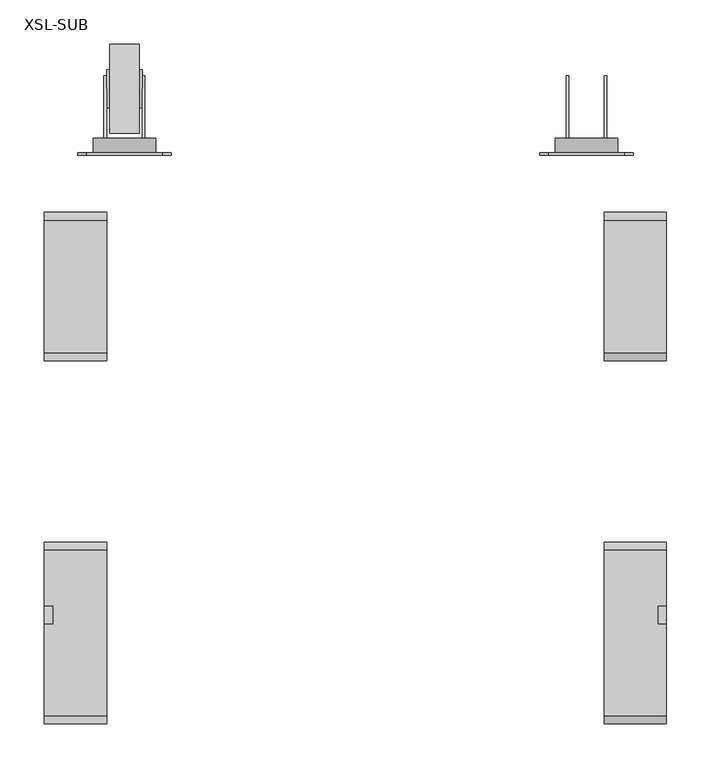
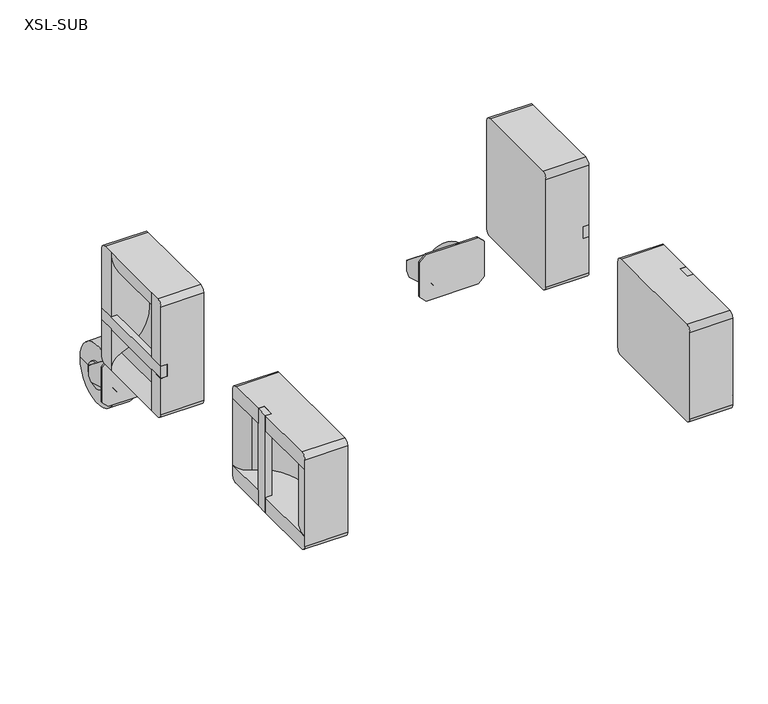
"""IFC4 building model written with IfcOpenShell, lengths in millimetres: proxy geometry, d&b SL-Series XSL-SUB : XSL-SUB."""

from ifc_helpers import new_model, si_unit, frame, origin, place, context, project, spatial, polyline, circle_curve, outline, extrude, source, transform, mapped, element, save
from ifc_brep_helpers import plane_surface, cylinder_surface, revolved_surface, advanced_brep


def xsl_sub_eb40c905(model_context):
    return source(origin(), model_context, "Body", "SolidModel", [
        advanced_brep(
        [(2780.0, 639.2505973, 387.5), (2780.0, 648.2505973, 378.5), (2780.0, 648.2505973, 192.5), (2780.0, 639.2505973, 183.5), (2780.0, 489.7505973, 183.5), (2780.0, 480.7505973, 192.5), (2780.0, 480.7505973, 378.5), (2780.0, 489.7505973, 387.5), (2850.0, 622.2505973, 183.5), (2850.0, 639.2505973, 183.5), (2850.0, 648.2505973, 192.5), (2850.0, 648.2505973, 254.8021634), (2850.0, 622.2505973, 254.8021634), (2850.0, 639.2505973, 387.5), (2850.0, 622.2505973, 387.5), (2850.0, 622.2505973, 275.646253), (2850.0, 648.2505973, 275.646253), (2850.0, 648.2505973, 378.5), (2850.0, 489.7505973, 387.5), (2850.0, 480.7505973, 378.5), (2850.0, 480.7505973, 275.646253), (2850.0, 506.7505973, 275.646253), (2850.0, 506.7505973, 387.5), (2850.0, 506.7505973, 183.5), (2850.0, 506.7505973, 254.8021634), (2850.0, 480.7505973, 254.8021634), (2850.0, 480.7505973, 192.5), (2850.0, 489.7505973, 183.5), (2840.0, 648.2505973, 275.646253), (2840.0, 648.2505973, 254.8021634), (2840.0, 622.2505973, 275.646253), (2840.0, 622.2505973, 254.8021634), (2818.7971722, 622.2505973, 330.5307847), (2833.0638712, 622.2505973, 207.402551), (2840.0, 506.7505973, 275.646253), (2840.0, 506.7505973, 254.8021634), (2833.0638712, 506.7505973, 207.402551), (2818.7971722, 506.7505973, 330.5307847), (2840.0, 480.7505973, 275.646253), (2840.0, 480.7505973, 254.8021634)],
        [
            (0, 1, circle_curve(frame((2780.0, 639.2505973, 378.5), z_axis=(-1.0, 0.0, 0.0), x_axis=(0.0, 1.0, 0.0)), 9.0)),
            (1, 2),
            (2, 3, circle_curve(frame((2780.0, 639.2505973, 192.5), z_axis=(-1.0, 0.0, 0.0), x_axis=(0.0, 1.0, 0.0)), 9.0)),
            (3, 4),
            (4, 5, circle_curve(frame((2780.0, 489.7505973, 192.5), z_axis=(-1.0, 0.0, 0.0), x_axis=(0.0, -1.0, 0.0)), 9.0)),
            (5, 6),
            (6, 7, circle_curve(frame((2780.0, 489.7505973, 378.5), z_axis=(-1.0, 0.0, 0.0), x_axis=(0.0, -1.0, 0.0)), 9.0)),
            (7, 0),
            (8, 9),
            (9, 10, circle_curve(frame((2850.0, 639.2505973, 192.5), z_axis=(1.0, 0.0, 0.0), x_axis=(0.0, 1.0, 0.0)), 9.0)),
            (10, 11),
            (11, 12),
            (12, 8),
            (13, 14),
            (14, 15),
            (15, 16),
            (16, 17),
            (17, 13, circle_curve(frame((2850.0, 639.2505973, 378.5), z_axis=(1.0, 0.0, 0.0), x_axis=(0.0, 1.0, 0.0)), 9.0)),
            (18, 19, circle_curve(frame((2850.0, 489.7505973, 378.5), z_axis=(1.0, 0.0, 0.0), x_axis=(0.0, -1.0, 0.0)), 9.0)),
            (19, 20),
            (20, 21),
            (21, 22),
            (22, 18),
            (23, 24),
            (24, 25),
            (25, 26),
            (26, 27, circle_curve(frame((2850.0, 489.7505973, 192.5), z_axis=(1.0, 0.0, 0.0), x_axis=(0.0, -1.0, 0.0)), 9.0)),
            (27, 23),
            (0, 13),
            (17, 1),
            (10, 2),
            (16, 28),
            (28, 29),
            (29, 11),
            (9, 3),
            (8, 23),
            (27, 4),
            (7, 18),
            (22, 14),
            (15, 30),
            (30, 28),
            (12, 31),
            (31, 30),
            (14, 32, circle_curve(frame((2782.3922182, 622.2505973, 387.5), z_axis=(0.0, 1.0, 0.0), x_axis=(-1.0, 0.0, 0.0)), 67.6077818)),
            (32, 33, circle_curve(frame((2855.918024, 622.2505973, 272.4412785), z_axis=(0.0, -1.0, 0.0), x_axis=(-1.0, 0.0, 0.0)), 68.9372786)),
            (33, 8, circle_curve(frame((2824.6646824, 622.2505973, 183.5), z_axis=(0.0, 1.0, 0.0), x_axis=(-1.0, 0.0, 0.0)), 25.3353176)),
            (29, 31),
            (21, 34),
            (34, 35),
            (35, 24),
            (23, 36, circle_curve(frame((2824.6646824, 506.7505973, 183.5), z_axis=(0.0, -1.0, 0.0), x_axis=(-1.0, 0.0, 0.0)), 25.3353176)),
            (36, 37, circle_curve(frame((2855.918024, 506.7505973, 272.4412785), z_axis=(0.0, 1.0, 0.0), x_axis=(-1.0, 0.0, 0.0)), 68.9372786)),
            (37, 22, circle_curve(frame((2782.3922182, 506.7505973, 387.5), z_axis=(0.0, -1.0, 0.0), x_axis=(-1.0, 0.0, 0.0)), 67.6077818)),
            (20, 38),
            (38, 34),
            (19, 6),
            (5, 26),
            (25, 39),
            (39, 38),
            (35, 39),
            (37, 32),
            (33, 36),
        ],
        [
            plane_surface(frame((2780.0, 648.2505973, 378.5), z_axis=(-1.0, 0.0, 0.0), x_axis=(0.0, 0.0, -1.0))),
            plane_surface(frame((2850.0, 648.2505973, 378.5), z_axis=(1.0, 0.0, 0.0), x_axis=(0.0, 0.0, 1.0))),
            cylinder_surface(frame((2850.0, 639.2505973, 378.5), z_axis=(-1.0, 0.0, 0.0), x_axis=(0.0, 1.0, 0.0)), 9.0),
            plane_surface(frame((2780.0, 648.2505973, 378.5), z_axis=(0.0, 1.0, 0.0), x_axis=(1.0, 0.0, 0.0))),
            cylinder_surface(frame((2850.0, 639.2505973, 192.5), z_axis=(-1.0, 0.0, 0.0), x_axis=(0.0, 1.0, 0.0)), 9.0),
            plane_surface(frame((2780.0, 639.2505973, 183.5), z_axis=(0.0, 0.0, -1.0), x_axis=(1.0, 0.0, 0.0))),
            plane_surface(frame((2780.0, 622.2505973, 387.5), z_axis=(0.0, 0.0, 1.0), x_axis=(1.0, 0.0, 0.0))),
            plane_surface(frame((2780.0, 648.2505973, 275.646253), z_axis=(0.0, 0.0, -1.0), x_axis=(1.0, 0.0, 0.0))),
            plane_surface(frame((2780.0, 622.2505973, 275.646253), z_axis=(0.0, -1.0, 0.0), x_axis=(1.0, 0.0, 0.0))),
            plane_surface(frame((2780.0, 622.2505973, 254.8021634), z_axis=(0.0, 0.0, 1.0), x_axis=(1.0, 0.0, 0.0))),
            plane_surface(frame((2780.0, 506.7505973, 387.5), z_axis=(0.0, 1.0, 0.0), x_axis=(1.0, 0.0, 0.0))),
            plane_surface(frame((2780.0, 506.7505973, 275.646253), z_axis=(0.0, 0.0, -1.0), x_axis=(1.0, 0.0, 0.0))),
            plane_surface(frame((2780.0, 480.7505973, 275.646253), z_axis=(0.0, -1.0, 0.0), x_axis=(1.0, 0.0, 0.0))),
            cylinder_surface(frame((2850.0, 489.7505973, 378.5), z_axis=(-1.0, 0.0, 0.0), x_axis=(0.0, -1.0, 0.0)), 9.0),
            cylinder_surface(frame((2850.0, 489.7505973, 192.5), z_axis=(-1.0, 0.0, 0.0), x_axis=(0.0, -1.0, 0.0)), 9.0),
            plane_surface(frame((2780.0, 480.7505973, 254.8021634), z_axis=(0.0, 0.0, 1.0), x_axis=(1.0, 0.0, 0.0))),
            plane_surface(frame((2840.0, 622.2505973, 254.8021634), z_axis=(1.0, 0.0, 0.0), x_axis=(0.0, 1.0, 0.0))),
            cylinder_surface(frame((2782.3922182, 622.2505973, 387.5), z_axis=(0.0, -1.0, 0.0), x_axis=(-1.0, 0.0, 0.0)), 67.6077818),
            cylinder_surface(frame((2824.6646824, 622.2505973, 183.5), z_axis=(0.0, -1.0, 0.0), x_axis=(-1.0, 0.0, 0.0)), 25.3353176),
            revolved_surface(polyline([(2786.9807454, 622.2505973, 272.4412785), (2786.9807454, 506.7505973, 272.4412785)]), (2855.918024, 622.2505973, 272.4412785), (0.0, 1.0, 0.0)),
        ],
        [
            (0, [[1, 2, 3, 4, 5, 6, 7, 8]]),
            (1, [[9, 10, 11, 12, 13]]),
            (1, [[14, 15, 16, 17, 18]]),
            (1, [[19, 20, 21, 22, 23]]),
            (1, [[24, 25, 26, 27, 28]]),
            (2, [[-1, 29, -18, 30]]),
            (3, [[-11, 31, -2, -30, -17, 32, 33, 34]]),
            (4, [[-3, -31, -10, 35]]),
            (5, [[-4, -35, -9, 36, -28, 37]]),
            (6, [[-8, 38, -23, 39, -14, -29]]),
            (7, [[-16, 40, 41, -32]]),
            (8, [[-13, 42, 43, -40, -15, 44, 45, 46]]),
            (9, [[-12, -34, 47, -42]]),
            (10, [[-22, 48, 49, 50, -24, 51, 52, 53]]),
            (11, [[-21, 54, 55, -48]]),
            (12, [[-20, 56, -6, 57, -26, 58, 59, -54]]),
            (13, [[-7, -56, -19, -38]]),
            (14, [[-5, -37, -27, -57]]),
            (15, [[-25, -50, 60, -58]]),
            (16, [[-33, -41, -43, -47]]),
            (16, [[-49, -55, -59, -60]]),
            (17, [[61, -44, -39, -53]]),
            (18, [[-36, -46, 62, -51]]),
            (19, [[-61, -52, -62, -45]]),
        ],
    ),
        extrude(outline(polyline([(2840.0, 480.7505973), (2840.0, 648.2505973), (2850.0, 648.2505973), (2850.0, 480.7505973), (2840.0, 480.7505973)])), frame((0.0, 0.0, 254.8021634), z_axis=(0.0, 0.0, 1.0), x_axis=(1.0, 0.0, 0.0)), (0.0, 0.0, 1.0), 20.8440895),
        advanced_brep(
        [(2780.0, 72.7505973, 211.5), (2780.0, 72.7505973, 361.0), (2780.0, 81.7505973, 370.0), (2780.0, 267.7505973, 370.0), (2780.0, 276.7505973, 361.0), (2780.0, 276.7505973, 211.5), (2780.0, 267.7505973, 202.5), (2780.0, 81.7505973, 202.5), (2850.0, 276.7505973, 228.5), (2850.0, 205.4484339, 228.5), (2850.0, 205.4484339, 202.5), (2850.0, 267.7505973, 202.5), (2850.0, 276.7505973, 211.5), (2850.0, 72.7505973, 211.5), (2850.0, 81.7505973, 202.5), (2850.0, 184.6043444, 202.5), (2850.0, 184.6043444, 228.5), (2850.0, 72.7505973, 228.5), (2850.0, 72.7505973, 361.0), (2850.0, 72.7505973, 344.0), (2850.0, 184.6043444, 344.0), (2850.0, 184.6043444, 370.0), (2850.0, 81.7505973, 370.0), (2850.0, 276.7505973, 344.0), (2850.0, 276.7505973, 361.0), (2850.0, 267.7505973, 370.0), (2850.0, 205.4484339, 370.0), (2850.0, 205.4484339, 344.0), (2840.0, 205.4484339, 202.5), (2840.0, 184.6043444, 202.5), (2840.0, 184.6043444, 228.5), (2833.0638712, 252.8480463, 228.5), (2818.7971722, 129.7198126, 228.5), (2840.0, 205.4484339, 228.5), (2818.7971722, 129.7198126, 344.0), (2833.0638712, 252.8480463, 344.0), (2840.0, 205.4484339, 344.0), (2840.0, 184.6043444, 344.0), (2840.0, 184.6043444, 370.0), (2840.0, 205.4484339, 370.0)],
        [
            (0, 1),
            (1, 2, circle_curve(frame((2780.0, 81.7505973, 361.0), z_axis=(-1.0, 0.0, 0.0), x_axis=(0.0, 0.0, 1.0)), 9.0)),
            (2, 3),
            (3, 4, circle_curve(frame((2780.0, 267.7505973, 361.0), z_axis=(-1.0, 0.0, 0.0), x_axis=(0.0, 0.0, 1.0)), 9.0)),
            (4, 5),
            (5, 6, circle_curve(frame((2780.0, 267.7505973, 211.5), z_axis=(-1.0, 0.0, 0.0), x_axis=(0.0, 0.0, -1.0)), 9.0)),
            (6, 7),
            (7, 0, circle_curve(frame((2780.0, 81.7505973, 211.5), z_axis=(-1.0, 0.0, 0.0), x_axis=(0.0, 0.0, -1.0)), 9.0)),
            (8, 9),
            (9, 10),
            (10, 11),
            (11, 12, circle_curve(frame((2850.0, 267.7505973, 211.5), z_axis=(1.0, 0.0, 0.0), x_axis=(0.0, 0.0, -1.0)), 9.0)),
            (12, 8),
            (13, 14, circle_curve(frame((2850.0, 81.7505973, 211.5), z_axis=(1.0, 0.0, 0.0), x_axis=(0.0, 0.0, -1.0)), 9.0)),
            (14, 15),
            (15, 16),
            (16, 17),
            (17, 13),
            (18, 19),
            (19, 20),
            (20, 21),
            (21, 22),
            (22, 18, circle_curve(frame((2850.0, 81.7505973, 361.0), z_axis=(1.0, 0.0, 0.0), x_axis=(0.0, 0.0, 1.0)), 9.0)),
            (23, 24),
            (24, 25, circle_curve(frame((2850.0, 267.7505973, 361.0), z_axis=(1.0, 0.0, 0.0), x_axis=(0.0, 0.0, 1.0)), 9.0)),
            (25, 26),
            (26, 27),
            (27, 23),
            (7, 14),
            (13, 0),
            (10, 28),
            (28, 29),
            (29, 15),
            (6, 11),
            (5, 12),
            (4, 24),
            (23, 8),
            (17, 19),
            (18, 1),
            (29, 30),
            (30, 16),
            (8, 31, circle_curve(frame((2824.6646824, 276.7505973, 228.5), z_axis=(0.0, 0.0, -1.0), x_axis=(-1.0, 0.0, 0.0)), 25.3353176)),
            (31, 32, circle_curve(frame((2855.918024, 187.8093188, 228.5), z_axis=(0.0, 0.0, 1.0), x_axis=(-1.0, 0.0, 0.0)), 68.9372786)),
            (32, 17, circle_curve(frame((2782.3922182, 72.7505973, 228.5), z_axis=(0.0, 0.0, -1.0), x_axis=(-1.0, 0.0, 0.0)), 67.6077818)),
            (30, 33),
            (33, 9),
            (33, 28),
            (19, 34, circle_curve(frame((2782.3922182, 72.7505973, 344.0), z_axis=(0.0, 0.0, 1.0), x_axis=(-1.0, 0.0, 0.0)), 67.6077818)),
            (34, 35, circle_curve(frame((2855.918024, 187.8093188, 344.0), z_axis=(0.0, 0.0, -1.0), x_axis=(-1.0, 0.0, 0.0)), 68.9372786)),
            (35, 23, circle_curve(frame((2824.6646824, 276.7505973, 344.0), z_axis=(0.0, 0.0, 1.0), x_axis=(-1.0, 0.0, 0.0)), 25.3353176)),
            (27, 36),
            (36, 37),
            (37, 20),
            (37, 38),
            (38, 21),
            (38, 39),
            (39, 26),
            (25, 3),
            (2, 22),
            (39, 36),
            (32, 34),
            (35, 31),
        ],
        [
            plane_surface(frame((2780.0, 81.7505973, 202.5), z_axis=(-1.0, 0.0, 0.0), x_axis=(0.0, 1.0, 0.0))),
            plane_surface(frame((2850.0, 81.7505973, 202.5), z_axis=(1.0, 0.0, 0.0), x_axis=(0.0, -1.0, 0.0))),
            cylinder_surface(frame((2850.0, 81.7505973, 211.5), z_axis=(-1.0, 0.0, 0.0), x_axis=(0.0, 0.0, -1.0)), 9.0),
            plane_surface(frame((2780.0, 81.7505973, 202.5), z_axis=(0.0, 0.0, -1.0), x_axis=(1.0, 0.0, 0.0))),
            cylinder_surface(frame((2850.0, 267.7505973, 211.5), z_axis=(-1.0, 0.0, 0.0), x_axis=(0.0, 0.0, -1.0)), 9.0),
            plane_surface(frame((2780.0, 276.7505973, 211.5), z_axis=(0.0, 1.0, 0.0), x_axis=(1.0, 0.0, 0.0))),
            plane_surface(frame((2780.0, 72.7505973, 228.5), z_axis=(0.0, -1.0, 0.0), x_axis=(1.0, 0.0, 0.0))),
            plane_surface(frame((2780.0, 184.6043444, 202.5), z_axis=(0.0, 1.0, 0.0), x_axis=(1.0, 0.0, 0.0))),
            plane_surface(frame((2780.0, 184.6043444, 228.5), z_axis=(0.0, 0.0, 1.0), x_axis=(1.0, 0.0, 0.0))),
            plane_surface(frame((2780.0, 205.4484339, 228.5), z_axis=(0.0, -1.0, 0.0), x_axis=(1.0, 0.0, 0.0))),
            plane_surface(frame((2780.0, 72.7505973, 344.0), z_axis=(0.0, 0.0, -1.0), x_axis=(1.0, 0.0, 0.0))),
            plane_surface(frame((2780.0, 184.6043444, 344.0), z_axis=(0.0, 1.0, 0.0), x_axis=(1.0, 0.0, 0.0))),
            plane_surface(frame((2780.0, 184.6043444, 370.0), z_axis=(0.0, 0.0, 1.0), x_axis=(1.0, 0.0, 0.0))),
            cylinder_surface(frame((2850.0, 81.7505973, 361.0), z_axis=(-1.0, 0.0, 0.0), x_axis=(0.0, 0.0, 1.0)), 9.0),
            cylinder_surface(frame((2850.0, 267.7505973, 361.0), z_axis=(-1.0, 0.0, 0.0), x_axis=(0.0, 0.0, 1.0)), 9.0),
            plane_surface(frame((2780.0, 205.4484339, 370.0), z_axis=(0.0, -1.0, 0.0), x_axis=(1.0, 0.0, 0.0))),
            plane_surface(frame((2840.0, 205.4484339, 228.5), z_axis=(1.0, 0.0, 0.0), x_axis=(0.0, 0.0, -1.0))),
            cylinder_surface(frame((2782.3922182, 72.7505973, 228.5), z_axis=(0.0, 0.0, 1.0), x_axis=(-1.0, 0.0, 0.0)), 67.6077818),
            cylinder_surface(frame((2824.6646824, 276.7505973, 228.5), z_axis=(0.0, 0.0, 1.0), x_axis=(-1.0, 0.0, 0.0)), 25.3353176),
            revolved_surface(polyline([(2786.9807454, 187.8093188, 228.5), (2786.9807454, 187.8093188, 344.0)]), (2855.918024, 187.8093188, 228.5), (0.0, 0.0, -1.0)),
        ],
        [
            (0, [[1, 2, 3, 4, 5, 6, 7, 8]]),
            (1, [[9, 10, 11, 12, 13]]),
            (1, [[14, 15, 16, 17, 18]]),
            (1, [[19, 20, 21, 22, 23]]),
            (1, [[24, 25, 26, 27, 28]]),
            (2, [[29, -14, 30, -8]]),
            (3, [[31, 32, 33, -15, -29, -7, 34, -11]]),
            (4, [[35, -12, -34, -6]]),
            (5, [[36, -24, 37, -13, -35, -5]]),
            (6, [[-30, -18, 38, -19, 39, -1]]),
            (7, [[-33, 40, 41, -16]]),
            (8, [[42, 43, 44, -17, -41, 45, 46, -9]]),
            (9, [[-46, 47, -31, -10]]),
            (10, [[48, 49, 50, -28, 51, 52, 53, -20]]),
            (11, [[-53, 54, 55, -21]]),
            (12, [[-55, 56, 57, -26, 58, -3, 59, -22]]),
            (13, [[-39, -23, -59, -2]]),
            (14, [[-58, -25, -36, -4]]),
            (15, [[-57, 60, -51, -27]]),
            (16, [[-47, -45, -40, -32]]),
            (16, [[-60, -56, -54, -52]]),
            (17, [[-48, -38, -44, 61]]),
            (18, [[-50, 62, -42, -37]]),
            (19, [[-43, -62, -49, -61]]),
        ],
    ),
        extrude(outline(polyline([(2840.0, 205.4484339), (2850.0, 205.4484339), (2850.0, 184.6043444), (2840.0, 184.6043444), (2840.0, 205.4484339)])), frame((0.0, 0.0, 202.5), z_axis=(0.0, 0.0, 1.0), x_axis=(1.0, 0.0, 0.0)), (0.0, 0.0, 1.0), 167.5),
        advanced_brep(
        [(2220.0, 639.2505973, 387.5), (2220.0, 489.7505973, 387.5), (2220.0, 480.7505973, 378.5), (2220.0, 480.7505973, 192.5), (2220.0, 489.7505973, 183.5), (2220.0, 639.2505973, 183.5), (2220.0, 648.2505973, 192.5), (2220.0, 648.2505973, 378.5), (2150.0, 622.2505973, 183.5), (2150.0, 622.2505973, 254.8021634), (2150.0, 648.2505973, 254.8021634), (2150.0, 648.2505973, 192.5), (2150.0, 639.2505973, 183.5), (2150.0, 639.2505973, 387.5), (2150.0, 648.2505973, 378.5), (2150.0, 648.2505973, 275.646253), (2150.0, 622.2505973, 275.646253), (2150.0, 622.2505973, 387.5), (2150.0, 489.7505973, 387.5), (2150.0, 506.7505973, 387.5), (2150.0, 506.7505973, 275.646253), (2150.0, 480.7505973, 275.646253), (2150.0, 480.7505973, 378.5), (2150.0, 506.7505973, 183.5), (2150.0, 489.7505973, 183.5), (2150.0, 480.7505973, 192.5), (2150.0, 480.7505973, 254.8021634), (2150.0, 506.7505973, 254.8021634), (2160.0, 648.2505973, 254.8021634), (2160.0, 648.2505973, 275.646253), (2160.0, 622.2505973, 275.646253), (2166.9361288, 622.2505973, 207.402551), (2181.2028278, 622.2505973, 330.5307847), (2160.0, 622.2505973, 254.8021634), (2181.2028278, 506.7505973, 330.5307847), (2166.9361288, 506.7505973, 207.402551), (2160.0, 506.7505973, 254.8021634), (2160.0, 506.7505973, 275.646253), (2160.0, 480.7505973, 275.646253), (2160.0, 480.7505973, 254.8021634)],
        [
            (0, 1),
            (1, 2, circle_curve(frame((2220.0, 489.7505973, 378.5), z_axis=(1.0, 0.0, 0.0), x_axis=(0.0, -1.0, 0.0)), 9.0)),
            (2, 3),
            (3, 4, circle_curve(frame((2220.0, 489.7505973, 192.5), z_axis=(1.0, 0.0, 0.0), x_axis=(0.0, -1.0, 0.0)), 9.0)),
            (4, 5),
            (5, 6, circle_curve(frame((2220.0, 639.2505973, 192.5), z_axis=(1.0, 0.0, 0.0), x_axis=(0.0, 1.0, 0.0)), 9.0)),
            (6, 7),
            (7, 0, circle_curve(frame((2220.0, 639.2505973, 378.5), z_axis=(1.0, 0.0, 0.0), x_axis=(0.0, 1.0, 0.0)), 9.0)),
            (8, 9),
            (9, 10),
            (10, 11),
            (11, 12, circle_curve(frame((2150.0, 639.2505973, 192.5), z_axis=(-1.0, 0.0, 0.0), x_axis=(0.0, 1.0, 0.0)), 9.0)),
            (12, 8),
            (13, 14, circle_curve(frame((2150.0, 639.2505973, 378.5), z_axis=(-1.0, 0.0, 0.0), x_axis=(0.0, 1.0, 0.0)), 9.0)),
            (14, 15),
            (15, 16),
            (16, 17),
            (17, 13),
            (18, 19),
            (19, 20),
            (20, 21),
            (21, 22),
            (22, 18, circle_curve(frame((2150.0, 489.7505973, 378.5), z_axis=(-1.0, 0.0, 0.0), x_axis=(0.0, -1.0, 0.0)), 9.0)),
            (23, 24),
            (24, 25, circle_curve(frame((2150.0, 489.7505973, 192.5), z_axis=(-1.0, 0.0, 0.0), x_axis=(0.0, -1.0, 0.0)), 9.0)),
            (25, 26),
            (26, 27),
            (27, 23),
            (7, 14),
            (13, 0),
            (10, 28),
            (28, 29),
            (29, 15),
            (6, 11),
            (5, 12),
            (4, 24),
            (23, 8),
            (17, 19),
            (18, 1),
            (29, 30),
            (30, 16),
            (8, 31, circle_curve(frame((2175.3353176, 622.2505973, 183.5), z_axis=(0.0, 1.0, 0.0), x_axis=(1.0, 0.0, 0.0)), 25.3353176)),
            (31, 32, circle_curve(frame((2144.081976, 622.2505973, 272.4412785), z_axis=(0.0, -1.0, 0.0), x_axis=(1.0, 0.0, 0.0)), 68.9372786)),
            (32, 17, circle_curve(frame((2217.6077818, 622.2505973, 387.5), z_axis=(0.0, 1.0, 0.0), x_axis=(1.0, 0.0, 0.0)), 67.6077818)),
            (30, 33),
            (33, 9),
            (33, 28),
            (19, 34, circle_curve(frame((2217.6077818, 506.7505973, 387.5), z_axis=(0.0, -1.0, 0.0), x_axis=(1.0, 0.0, 0.0)), 67.6077818)),
            (34, 35, circle_curve(frame((2144.081976, 506.7505973, 272.4412785), z_axis=(0.0, 1.0, 0.0), x_axis=(1.0, 0.0, 0.0)), 68.9372786)),
            (35, 23, circle_curve(frame((2175.3353176, 506.7505973, 183.5), z_axis=(0.0, -1.0, 0.0), x_axis=(1.0, 0.0, 0.0)), 25.3353176)),
            (27, 36),
            (36, 37),
            (37, 20),
            (37, 38),
            (38, 21),
            (38, 39),
            (39, 26),
            (25, 3),
            (2, 22),
            (39, 36),
            (32, 34),
            (35, 31),
        ],
        [
            plane_surface(frame((2220.0, 648.2505973, 378.5), z_axis=(1.0, 0.0, 0.0), x_axis=(0.0, 0.0, -1.0))),
            plane_surface(frame((2150.0, 648.2505973, 378.5), z_axis=(-1.0, 0.0, 0.0), x_axis=(0.0, 0.0, 1.0))),
            cylinder_surface(frame((2150.0, 639.2505973, 378.5), z_axis=(1.0, 0.0, 0.0), x_axis=(0.0, 1.0, 0.0)), 9.0),
            plane_surface(frame((2220.0, 648.2505973, 378.5), z_axis=(0.0, 1.0, 0.0), x_axis=(-1.0, 0.0, 0.0))),
            cylinder_surface(frame((2150.0, 639.2505973, 192.5), z_axis=(1.0, 0.0, 0.0), x_axis=(0.0, 1.0, 0.0)), 9.0),
            plane_surface(frame((2220.0, 639.2505973, 183.5), z_axis=(0.0, 0.0, -1.0), x_axis=(-1.0, 0.0, 0.0))),
            plane_surface(frame((2220.0, 622.2505973, 387.5), z_axis=(0.0, 0.0, 1.0), x_axis=(-1.0, 0.0, 0.0))),
            plane_surface(frame((2220.0, 648.2505973, 275.646253), z_axis=(0.0, 0.0, -1.0), x_axis=(-1.0, 0.0, 0.0))),
            plane_surface(frame((2220.0, 622.2505973, 275.646253), z_axis=(0.0, -1.0, 0.0), x_axis=(-1.0, 0.0, 0.0))),
            plane_surface(frame((2220.0, 622.2505973, 254.8021634), z_axis=(0.0, 0.0, 1.0), x_axis=(-1.0, 0.0, 0.0))),
            plane_surface(frame((2220.0, 506.7505973, 387.5), z_axis=(0.0, 1.0, 0.0), x_axis=(-1.0, 0.0, 0.0))),
            plane_surface(frame((2220.0, 506.7505973, 275.646253), z_axis=(0.0, 0.0, -1.0), x_axis=(-1.0, 0.0, 0.0))),
            plane_surface(frame((2220.0, 480.7505973, 275.646253), z_axis=(0.0, -1.0, 0.0), x_axis=(-1.0, 0.0, 0.0))),
            cylinder_surface(frame((2150.0, 489.7505973, 378.5), z_axis=(1.0, 0.0, 0.0), x_axis=(0.0, -1.0, 0.0)), 9.0),
            cylinder_surface(frame((2150.0, 489.7505973, 192.5), z_axis=(1.0, 0.0, 0.0), x_axis=(0.0, -1.0, 0.0)), 9.0),
            plane_surface(frame((2220.0, 480.7505973, 254.8021634), z_axis=(0.0, 0.0, 1.0), x_axis=(-1.0, 0.0, 0.0))),
            plane_surface(frame((2160.0, 622.2505973, 254.8021634), z_axis=(-1.0, 0.0, 0.0), x_axis=(0.0, 1.0, 0.0))),
            cylinder_surface(frame((2217.6077818, 622.2505973, 387.5), z_axis=(0.0, -1.0, 0.0), x_axis=(1.0, 0.0, 0.0)), 67.6077818),
            cylinder_surface(frame((2175.3353176, 622.2505973, 183.5), z_axis=(0.0, -1.0, 0.0), x_axis=(1.0, 0.0, 0.0)), 25.3353176),
            revolved_surface(polyline([(2213.0192546, 622.2505973, 272.4412785), (2213.0192546, 506.7505973, 272.4412785)]), (2144.081976, 622.2505973, 272.4412785), (0.0, 1.0, 0.0)),
        ],
        [
            (0, [[1, 2, 3, 4, 5, 6, 7, 8]]),
            (1, [[9, 10, 11, 12, 13]]),
            (1, [[14, 15, 16, 17, 18]]),
            (1, [[19, 20, 21, 22, 23]]),
            (1, [[24, 25, 26, 27, 28]]),
            (2, [[29, -14, 30, -8]]),
            (3, [[31, 32, 33, -15, -29, -7, 34, -11]]),
            (4, [[35, -12, -34, -6]]),
            (5, [[36, -24, 37, -13, -35, -5]]),
            (6, [[-30, -18, 38, -19, 39, -1]]),
            (7, [[-33, 40, 41, -16]]),
            (8, [[42, 43, 44, -17, -41, 45, 46, -9]]),
            (9, [[-46, 47, -31, -10]]),
            (10, [[48, 49, 50, -28, 51, 52, 53, -20]]),
            (11, [[-53, 54, 55, -21]]),
            (12, [[-55, 56, 57, -26, 58, -3, 59, -22]]),
            (13, [[-39, -23, -59, -2]]),
            (14, [[-58, -25, -36, -4]]),
            (15, [[-57, 60, -51, -27]]),
            (16, [[-47, -45, -40, -32]]),
            (16, [[-60, -56, -54, -52]]),
            (17, [[-48, -38, -44, 61]]),
            (18, [[-50, 62, -42, -37]]),
            (19, [[-43, -62, -49, -61]]),
        ],
    ),
        extrude(outline(polyline([(2160.0, 480.7505973), (2150.0, 480.7505973), (2150.0, 648.2505973), (2160.0, 648.2505973), (2160.0, 480.7505973)])), frame((0.0, 0.0, 254.8021634), z_axis=(0.0, 0.0, 1.0), x_axis=(1.0, 0.0, 0.0)), (0.0, 0.0, 1.0), 20.8440895),
        advanced_brep(
        [(2220.0, 72.7505973, 211.5), (2220.0, 81.7505973, 202.5), (2220.0, 267.7505973, 202.5), (2220.0, 276.7505973, 211.5), (2220.0, 276.7505973, 361.0), (2220.0, 267.7505973, 370.0), (2220.0, 81.7505973, 370.0), (2220.0, 72.7505973, 361.0), (2150.0, 276.7505973, 228.5), (2150.0, 276.7505973, 211.5), (2150.0, 267.7505973, 202.5), (2150.0, 205.4484339, 202.5), (2150.0, 205.4484339, 228.5), (2150.0, 72.7505973, 211.5), (2150.0, 72.7505973, 228.5), (2150.0, 184.6043444, 228.5), (2150.0, 184.6043444, 202.5), (2150.0, 81.7505973, 202.5), (2150.0, 72.7505973, 361.0), (2150.0, 81.7505973, 370.0), (2150.0, 184.6043444, 370.0), (2150.0, 184.6043444, 344.0), (2150.0, 72.7505973, 344.0), (2150.0, 276.7505973, 344.0), (2150.0, 205.4484339, 344.0), (2150.0, 205.4484339, 370.0), (2150.0, 267.7505973, 370.0), (2150.0, 276.7505973, 361.0), (2160.0, 184.6043444, 202.5), (2160.0, 205.4484339, 202.5), (2160.0, 184.6043444, 228.5), (2160.0, 205.4484339, 228.5), (2181.2028278, 129.7198126, 228.5), (2166.9361288, 252.8480463, 228.5), (2160.0, 184.6043444, 344.0), (2160.0, 205.4484339, 344.0), (2166.9361288, 252.8480463, 344.0), (2181.2028278, 129.7198126, 344.0), (2160.0, 184.6043444, 370.0), (2160.0, 205.4484339, 370.0)],
        [
            (0, 1, circle_curve(frame((2220.0, 81.7505973, 211.5), z_axis=(1.0, 0.0, 0.0), x_axis=(0.0, 0.0, -1.0)), 9.0)),
            (1, 2),
            (2, 3, circle_curve(frame((2220.0, 267.7505973, 211.5), z_axis=(1.0, 0.0, 0.0), x_axis=(0.0, 0.0, -1.0)), 9.0)),
            (3, 4),
            (4, 5, circle_curve(frame((2220.0, 267.7505973, 361.0), z_axis=(1.0, 0.0, 0.0), x_axis=(0.0, 0.0, 1.0)), 9.0)),
            (5, 6),
            (6, 7, circle_curve(frame((2220.0, 81.7505973, 361.0), z_axis=(1.0, 0.0, 0.0), x_axis=(0.0, 0.0, 1.0)), 9.0)),
            (7, 0),
            (8, 9),
            (9, 10, circle_curve(frame((2150.0, 267.7505973, 211.5), z_axis=(-1.0, 0.0, 0.0), x_axis=(0.0, 0.0, -1.0)), 9.0)),
            (10, 11),
            (11, 12),
            (12, 8),
            (13, 14),
            (14, 15),
            (15, 16),
            (16, 17),
            (17, 13, circle_curve(frame((2150.0, 81.7505973, 211.5), z_axis=(-1.0, 0.0, 0.0), x_axis=(0.0, 0.0, -1.0)), 9.0)),
            (18, 19, circle_curve(frame((2150.0, 81.7505973, 361.0), z_axis=(-1.0, 0.0, 0.0), x_axis=(0.0, 0.0, 1.0)), 9.0)),
            (19, 20),
            (20, 21),
            (21, 22),
            (22, 18),
            (23, 24),
            (24, 25),
            (25, 26),
            (26, 27, circle_curve(frame((2150.0, 267.7505973, 361.0), z_axis=(-1.0, 0.0, 0.0), x_axis=(0.0, 0.0, 1.0)), 9.0)),
            (27, 23),
            (0, 13),
            (17, 1),
            (10, 2),
            (16, 28),
            (28, 29),
            (29, 11),
            (9, 3),
            (8, 23),
            (27, 4),
            (7, 18),
            (22, 14),
            (15, 30),
            (30, 28),
            (12, 31),
            (31, 30),
            (14, 32, circle_curve(frame((2217.6077818, 72.7505973, 228.5), z_axis=(0.0, 0.0, -1.0), x_axis=(1.0, 0.0, 0.0)), 67.6077818)),
            (32, 33, circle_curve(frame((2144.081976, 187.8093188, 228.5), z_axis=(0.0, 0.0, 1.0), x_axis=(1.0, 0.0, 0.0)), 68.9372786)),
            (33, 8, circle_curve(frame((2175.3353176, 276.7505973, 228.5), z_axis=(0.0, 0.0, -1.0), x_axis=(1.0, 0.0, 0.0)), 25.3353176)),
            (29, 31),
            (21, 34),
            (34, 35),
            (35, 24),
            (23, 36, circle_curve(frame((2175.3353176, 276.7505973, 344.0), z_axis=(0.0, 0.0, 1.0), x_axis=(1.0, 0.0, 0.0)), 25.3353176)),
            (36, 37, circle_curve(frame((2144.081976, 187.8093188, 344.0), z_axis=(0.0, 0.0, -1.0), x_axis=(1.0, 0.0, 0.0)), 68.9372786)),
            (37, 22, circle_curve(frame((2217.6077818, 72.7505973, 344.0), z_axis=(0.0, 0.0, 1.0), x_axis=(1.0, 0.0, 0.0)), 67.6077818)),
            (20, 38),
            (38, 34),
            (19, 6),
            (5, 26),
            (25, 39),
            (39, 38),
            (35, 39),
            (37, 32),
            (33, 36),
        ],
        [
            plane_surface(frame((2220.0, 81.7505973, 202.5), z_axis=(1.0, 0.0, 0.0), x_axis=(0.0, 1.0, 0.0))),
            plane_surface(frame((2150.0, 81.7505973, 202.5), z_axis=(-1.0, 0.0, 0.0), x_axis=(0.0, -1.0, 0.0))),
            cylinder_surface(frame((2150.0, 81.7505973, 211.5), z_axis=(1.0, 0.0, 0.0), x_axis=(0.0, 0.0, -1.0)), 9.0),
            plane_surface(frame((2220.0, 81.7505973, 202.5), z_axis=(0.0, 0.0, -1.0), x_axis=(-1.0, 0.0, 0.0))),
            cylinder_surface(frame((2150.0, 267.7505973, 211.5), z_axis=(1.0, 0.0, 0.0), x_axis=(0.0, 0.0, -1.0)), 9.0),
            plane_surface(frame((2220.0, 276.7505973, 211.5), z_axis=(0.0, 1.0, 0.0), x_axis=(-1.0, 0.0, 0.0))),
            plane_surface(frame((2220.0, 72.7505973, 228.5), z_axis=(0.0, -1.0, 0.0), x_axis=(-1.0, 0.0, 0.0))),
            plane_surface(frame((2220.0, 184.6043444, 202.5), z_axis=(0.0, 1.0, 0.0), x_axis=(-1.0, 0.0, 0.0))),
            plane_surface(frame((2220.0, 184.6043444, 228.5), z_axis=(0.0, 0.0, 1.0), x_axis=(-1.0, 0.0, 0.0))),
            plane_surface(frame((2220.0, 205.4484339, 228.5), z_axis=(0.0, -1.0, 0.0), x_axis=(-1.0, 0.0, 0.0))),
            plane_surface(frame((2220.0, 72.7505973, 344.0), z_axis=(0.0, 0.0, -1.0), x_axis=(-1.0, 0.0, 0.0))),
            plane_surface(frame((2220.0, 184.6043444, 344.0), z_axis=(0.0, 1.0, 0.0), x_axis=(-1.0, 0.0, 0.0))),
            plane_surface(frame((2220.0, 184.6043444, 370.0), z_axis=(0.0, 0.0, 1.0), x_axis=(-1.0, 0.0, 0.0))),
            cylinder_surface(frame((2150.0, 81.7505973, 361.0), z_axis=(1.0, 0.0, 0.0), x_axis=(0.0, 0.0, 1.0)), 9.0),
            cylinder_surface(frame((2150.0, 267.7505973, 361.0), z_axis=(1.0, 0.0, 0.0), x_axis=(0.0, 0.0, 1.0)), 9.0),
            plane_surface(frame((2220.0, 205.4484339, 370.0), z_axis=(0.0, -1.0, 0.0), x_axis=(-1.0, 0.0, 0.0))),
            plane_surface(frame((2160.0, 205.4484339, 228.5), z_axis=(-1.0, 0.0, 0.0), x_axis=(0.0, 0.0, -1.0))),
            cylinder_surface(frame((2217.6077818, 72.7505973, 228.5), z_axis=(0.0, 0.0, 1.0), x_axis=(1.0, 0.0, 0.0)), 67.6077818),
            cylinder_surface(frame((2175.3353176, 276.7505973, 228.5), z_axis=(0.0, 0.0, 1.0), x_axis=(1.0, 0.0, 0.0)), 25.3353176),
            revolved_surface(polyline([(2213.0192546, 187.8093188, 228.5), (2213.0192546, 187.8093188, 344.0)]), (2144.081976, 187.8093188, 228.5), (0.0, 0.0, -1.0)),
        ],
        [
            (0, [[1, 2, 3, 4, 5, 6, 7, 8]]),
            (1, [[9, 10, 11, 12, 13]]),
            (1, [[14, 15, 16, 17, 18]]),
            (1, [[19, 20, 21, 22, 23]]),
            (1, [[24, 25, 26, 27, 28]]),
            (2, [[-1, 29, -18, 30]]),
            (3, [[-11, 31, -2, -30, -17, 32, 33, 34]]),
            (4, [[-3, -31, -10, 35]]),
            (5, [[-4, -35, -9, 36, -28, 37]]),
            (6, [[-8, 38, -23, 39, -14, -29]]),
            (7, [[-16, 40, 41, -32]]),
            (8, [[-13, 42, 43, -40, -15, 44, 45, 46]]),
            (9, [[-12, -34, 47, -42]]),
            (10, [[-22, 48, 49, 50, -24, 51, 52, 53]]),
            (11, [[-21, 54, 55, -48]]),
            (12, [[-20, 56, -6, 57, -26, 58, 59, -54]]),
            (13, [[-7, -56, -19, -38]]),
            (14, [[-5, -37, -27, -57]]),
            (15, [[-25, -50, 60, -58]]),
            (16, [[-33, -41, -43, -47]]),
            (16, [[-49, -55, -59, -60]]),
            (17, [[61, -44, -39, -53]]),
            (18, [[-36, -46, 62, -51]]),
            (19, [[-61, -52, -62, -45]]),
        ],
    ),
        extrude(outline(polyline([(2160.0, 205.4484339), (2160.0, 184.6043444), (2150.0, 184.6043444), (2150.0, 205.4484339), (2160.0, 205.4484339)])), frame((0.0, 0.0, 202.5), z_axis=(0.0, 0.0, 1.0), x_axis=(1.0, 0.0, 0.0)), (0.0, 0.0, 1.0), 167.5),
        advanced_brep(
        [(2275.0, 731.2505973, 89.499962), (2263.0, 731.2505973, 63.1181501), (2263.0, 731.2505973, 115.5781491), (2260.0, 731.2505973, 115.5781491), (2260.0, 731.2505973, 60.7771488), (2220.0, 731.2505973, 60.7771488), (2220.0, 731.2505973, 115.5781491), (2217.0, 731.2505973, 115.5781491), (2217.0, 731.2505973, 63.1181501), (2205.0, 731.2505973, 89.499962), (2205.0, 715.2505973, 89.499962), (2217.0, 715.2505973, 63.1181501), (2217.0, 715.2505973, 54.67524), (2220.0, 715.2505973, 54.67524), (2220.0, 715.2505973, 60.7771488), (2260.0, 715.2505973, 60.7771488), (2260.0, 715.2505973, 54.67524), (2263.0, 715.2505973, 54.67524), (2263.0, 715.2505973, 63.1181501), (2275.0, 715.2505973, 89.499962), (2263.0, 729.9505973, 54.67524), (2263.0, 794.4505973, 34.499962), (2263.0, 801.4505973, 41.499962), (2263.0, 801.4505973, 59.6264244), (2260.0, 801.4505973, 59.6264244), (2260.0, 801.4505973, 41.499962), (2260.0, 794.4505973, 34.499962), (2260.0, 729.9505973, 54.67524), (2217.0, 801.4505973, 59.6264244), (2217.0, 801.4505973, 41.499962), (2217.0, 794.4505973, 34.499962), (2217.0, 729.9505973, 54.67524), (2220.0, 729.9505973, 54.67524), (2220.0, 794.4505973, 34.499962), (2220.0, 801.4505973, 41.499962), (2220.0, 801.4505973, 59.6264244)],
        [
            (0, 1, circle_curve(frame((2240.0, 731.2505973, 89.499962), z_axis=(0.0, 1.0, 0.0), x_axis=(1.0, 0.0, 0.0)), 35.0)),
            (1, 2),
            (2, 3),
            (3, 4),
            (4, 5, circle_curve(frame((2240.0, 731.2505973, 89.499962), z_axis=(0.0, 1.0, 0.0), x_axis=(1.0, 0.0, 0.0)), 35.0)),
            (5, 6),
            (6, 7),
            (7, 8),
            (8, 9, circle_curve(frame((2240.0, 731.2505973, 89.499962), z_axis=(0.0, 1.0, 0.0), x_axis=(1.0, 0.0, 0.0)), 35.0)),
            (9, 0, circle_curve(frame((2240.0, 731.2505973, 89.499962), z_axis=(0.0, 1.0, 0.0), x_axis=(1.0, 0.0, 0.0)), 35.0)),
            (10, 11, circle_curve(frame((2240.0, 715.2505973, 89.499962), z_axis=(0.0, -1.0, 0.0), x_axis=(1.0, 0.0, 0.0)), 35.0)),
            (11, 12),
            (12, 13),
            (13, 14),
            (14, 15, circle_curve(frame((2240.0, 715.2505973, 89.499962), z_axis=(0.0, -1.0, 0.0), x_axis=(1.0, 0.0, 0.0)), 35.0)),
            (15, 16),
            (16, 17),
            (17, 18),
            (18, 19, circle_curve(frame((2240.0, 715.2505973, 89.499962), z_axis=(0.0, -1.0, 0.0), x_axis=(1.0, 0.0, 0.0)), 35.0)),
            (19, 10, circle_curve(frame((2240.0, 715.2505973, 89.499962), z_axis=(0.0, -1.0, 0.0), x_axis=(1.0, 0.0, 0.0)), 35.0)),
            (8, 11),
            (10, 9),
            (14, 5),
            (4, 15),
            (18, 1),
            (0, 19),
            (17, 20),
            (20, 21),
            (21, 22),
            (22, 23),
            (23, 2),
            (3, 24),
            (24, 25),
            (25, 26),
            (26, 27),
            (27, 16),
            (23, 24),
            (22, 25),
            (21, 26),
            (20, 27),
            (7, 28),
            (28, 29),
            (29, 30),
            (30, 31),
            (31, 12),
            (13, 32),
            (32, 33),
            (33, 34),
            (34, 35),
            (35, 6),
            (35, 28),
            (34, 29),
            (33, 30),
            (32, 31),
        ],
        [
            plane_surface(frame((2275.0, 731.2505973, 89.499962), z_axis=(0.0, 1.0, 0.0), x_axis=(0.0, 0.0, 1.0))),
            plane_surface(frame((2275.0, 715.2505973, 89.499962), z_axis=(0.0, -1.0, 0.0), x_axis=(0.0, 0.0, -1.0))),
            cylinder_surface(frame((2240.0, 715.2505973, 89.499962), z_axis=(0.0, 1.0, 0.0), x_axis=(1.0, 0.0, 0.0)), 35.0),
            plane_surface(frame((2263.0, 785.1202866, 72.6422228), z_axis=(1.0000000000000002, 0.0, 0.0), x_axis=(0.0, 0.7819992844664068, -0.6232793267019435))),
            plane_surface(frame((2260.0, 785.1202866, 72.6422228), z_axis=(-1.0000000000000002, 0.0, 0.0), x_axis=(0.0, -0.7819992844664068, 0.6232793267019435))),
            plane_surface(frame((2263.0, 731.2505973, 115.5781491), z_axis=(0.0, 0.6232793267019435, 0.7819992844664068), x_axis=(-1.0, 0.0, 0.0))),
            plane_surface(frame((2263.0, 801.4505973, 59.6264244), z_axis=(0.0, 1.0, 0.0), x_axis=(-1.0, 0.0, 0.0))),
            plane_surface(frame((2263.0, 801.4505973, 41.499962), z_axis=(0.0, 0.7071067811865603, -0.7071067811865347), x_axis=(-1.0, 0.0, 0.0))),
            plane_surface(frame((2263.0, 794.4505973, 34.499962), z_axis=(0.0, -0.29853148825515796, -0.9543997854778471), x_axis=(-1.0, 0.0, 0.0))),
            plane_surface(frame((2263.0, 729.9505973, 54.67524), z_axis=(0.0, 0.0, -1.0), x_axis=(-1.0, 0.0, 0.0))),
            plane_surface(frame((2217.0, 731.2505973, 115.5781491), z_axis=(-1.0, 0.0, 0.0), x_axis=(0.0, -1.0, 0.0))),
            plane_surface(frame((2220.0, 731.2505973, 115.5781491), z_axis=(1.0, 0.0, 0.0), x_axis=(0.0, 1.0, 0.0))),
            plane_surface(frame((2217.0, 801.4505973, 59.6264244), z_axis=(0.0, 0.6232793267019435, 0.7819992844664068), x_axis=(1.0, 0.0, 0.0))),
            plane_surface(frame((2217.0, 801.4505973, 41.499962), z_axis=(0.0, 1.0, 0.0), x_axis=(1.0, 0.0, 0.0))),
            plane_surface(frame((2217.0, 794.4505973, 34.499962), z_axis=(0.0, 0.7071067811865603, -0.7071067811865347), x_axis=(1.0, 0.0, 0.0))),
            plane_surface(frame((2217.0, 729.9505973, 54.67524), z_axis=(0.0, -0.29853148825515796, -0.9543997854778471), x_axis=(1.0, 0.0, 0.0))),
            plane_surface(frame((2217.0, 715.2505973, 54.67524), z_axis=(0.0, 0.0, -1.0), x_axis=(1.0, 0.0, 0.0))),
        ],
        [
            (0, [[1, 2, 3, 4, 5, 6, 7, 8, 9, 10]]),
            (1, [[11, 12, 13, 14, 15, 16, 17, 18, 19, 20]]),
            (2, [[-9, 21, -11, 22]]),
            (2, [[-15, 23, -5, 24]]),
            (2, [[-19, 25, -1, 26]]),
            (2, [[-22, -20, -26, -10]]),
            (3, [[-2, -25, -18, 27, 28, 29, 30, 31]]),
            (4, [[-16, -24, -4, 32, 33, 34, 35, 36]]),
            (5, [[37, -32, -3, -31]]),
            (6, [[38, -33, -37, -30]]),
            (7, [[39, -34, -38, -29]]),
            (8, [[40, -35, -39, -28]]),
            (9, [[-17, -36, -40, -27]]),
            (10, [[-12, -21, -8, 41, 42, 43, 44, 45]]),
            (11, [[-6, -23, -14, 46, 47, 48, 49, 50]]),
            (12, [[-7, -50, 51, -41]]),
            (13, [[-51, -49, 52, -42]]),
            (14, [[-52, -48, 53, -43]]),
            (15, [[-53, -47, 54, -44]]),
            (16, [[-54, -46, -13, -45]]),
        ],
    ),
        extrude(outline(polyline([(129.5, 2197.500038), (119.499962, 2187.5), (59.499962, 2187.5), (49.499924, 2197.500038), (49.499924, 2282.499962), (59.499962, 2292.5), (119.499962, 2292.5), (129.5, 2282.499962), (129.5, 2197.500038)])), frame((0.0, 712.2505973, 0.0), z_axis=(0.0, 1.0, 0.0), x_axis=(0.0, 0.0, 1.0)), (0.0, 0.0, 1.0), 3.0),
        advanced_brep(
        [(2256.6767578, 736.9067763, 49.9678867), (2223.3232422, 736.9067763, 49.9678867), (2223.3232422, 836.9067763, 49.9678867), (2256.6767578, 836.9067763, 49.9678867), (2256.6767578, 765.493179, 49.9678867), (2256.6767578, 808.3203735, 49.9678867), (2260.0, 765.493179, 49.9678867), (2260.0, 808.3203735, 49.9678867), (2260.0, 786.9067763, 49.9678867), (2220.0, 765.493179, 49.9678867), (2220.0, 786.9067763, 49.9678867), (2220.0, 808.3203735, 49.9678867), (2223.3232422, 765.493179, 49.9678867), (2223.3232422, 808.3203735, 49.9678867)],
        [
            (0, 1),
            (1, 2, circle_curve(frame((2223.3232422, 786.9067763, 49.9678867), z_axis=(1.0, 0.0, 0.0), x_axis=(0.0, 1.0, 0.0)), 50.0)),
            (2, 3),
            (3, 0, circle_curve(frame((2256.6767578, 786.9067763, 49.9678867), z_axis=(-1.0, 0.0, 0.0), x_axis=(0.0, 1.0, 0.0)), 50.0)),
            (2, 1, circle_curve(frame((2223.3232422, 786.9067763, 49.9678867), z_axis=(1.0, 0.0, 0.0), x_axis=(0.0, 1.0, 0.0)), 50.0)),
            (0, 3, circle_curve(frame((2256.6767578, 786.9067763, 49.9678867), z_axis=(-1.0, 0.0, 0.0), x_axis=(0.0, 1.0, 0.0)), 50.0)),
            (4, 0),
            (3, 5),
            (5, 4, circle_curve(frame((2256.6767578, 786.9067763, 49.9678867), z_axis=(-1.0, 0.0, 0.0), x_axis=(0.0, 1.0, 0.0)), 21.4135972)),
            (4, 5, circle_curve(frame((2256.6767578, 786.9067763, 49.9678867), z_axis=(-1.0, 0.0, 0.0), x_axis=(0.0, 1.0, 0.0)), 21.4135972)),
            (6, 4),
            (5, 7),
            (7, 6, circle_curve(frame((2260.0, 786.9067763, 49.9678867), z_axis=(-1.0, 0.0, 0.0), x_axis=(0.0, 1.0, 0.0)), 21.4135972)),
            (6, 7, circle_curve(frame((2260.0, 786.9067763, 49.9678867), z_axis=(-1.0, 0.0, 0.0), x_axis=(0.0, 1.0, 0.0)), 21.4135972)),
            (8, 6),
            (7, 8),
            (9, 10),
            (10, 11),
            (11, 9, circle_curve(frame((2220.0, 786.9067763, 49.9678867), z_axis=(-1.0, 0.0, 0.0), x_axis=(0.0, 1.0, 0.0)), 21.4135972)),
            (9, 11, circle_curve(frame((2220.0, 786.9067763, 49.9678867), z_axis=(-1.0, 0.0, 0.0), x_axis=(0.0, 1.0, 0.0)), 21.4135972)),
            (12, 9),
            (11, 13),
            (13, 12, circle_curve(frame((2223.3232422, 786.9067763, 49.9678867), z_axis=(-1.0, 0.0, 0.0), x_axis=(0.0, 1.0, 0.0)), 21.4135972)),
            (12, 13, circle_curve(frame((2223.3232422, 786.9067763, 49.9678867), z_axis=(-1.0, 0.0, 0.0), x_axis=(0.0, 1.0, 0.0)), 21.4135972)),
            (1, 12),
            (13, 2),
        ],
        [
            cylinder_surface(frame((2282.9432543, 786.9067763, 49.9678867), z_axis=(1.0, 0.0, 0.0), x_axis=(0.0, 1.0, 0.0)), 50.0),
            plane_surface(frame((2256.6767578, 786.9067763, 49.9678867), z_axis=(1.0, 0.0, 0.0), x_axis=(0.0, 1.0, 0.0))),
            cylinder_surface(frame((2282.9432543, 786.9067763, 49.9678867), z_axis=(1.0, 0.0, 0.0), x_axis=(0.0, 1.0, 0.0)), 21.4135972),
            plane_surface(frame((2260.0, 786.9067763, 49.9678867), z_axis=(1.0, 0.0, 0.0), x_axis=(0.0, 1.0, 0.0))),
            plane_surface(frame((2220.0, 786.9067763, 49.9678867), z_axis=(-1.0, 0.0, 0.0), x_axis=(0.0, 1.0, 0.0))),
            plane_surface(frame((2223.3232422, 786.9067763, 49.9678867), z_axis=(-1.0, 0.0, 0.0), x_axis=(0.0, 1.0, 0.0))),
        ],
        [
            (0, [[1, 2, 3, 4]]),
            (0, [[-3, 5, -1, 6]]),
            (1, [[7, -4, 8, 9]]),
            (1, [[-8, -6, -7, 10]]),
            (2, [[11, -9, 12, 13]]),
            (2, [[-12, -10, -11, 14]]),
            (3, [[15, -13, 16]]),
            (3, [[-16, -14, -15]]),
            (4, [[17, 18, 19]]),
            (4, [[-18, -17, 20]]),
            (2, [[21, -19, 22, 23]]),
            (2, [[-22, -20, -21, 24]]),
            (5, [[25, -23, 26, -2]]),
            (5, [[-26, -24, -25, -5]]),
        ],
    ),
        advanced_brep(
        [(2725.0, 731.2505973, 89.499962), (2795.0, 731.2505973, 89.499962), (2783.0, 731.2505973, 63.1181501), (2783.0, 731.2505973, 115.5781491), (2780.0, 731.2505973, 115.5781491), (2780.0, 731.2505973, 60.7771488), (2740.0, 731.2505973, 60.7771488), (2740.0, 731.2505973, 115.5781491), (2737.0, 731.2505973, 115.5781491), (2737.0, 731.2505973, 63.1181501), (2795.0, 715.2505973, 89.499962), (2725.0, 715.2505973, 89.499962), (2737.0, 715.2505973, 63.1181501), (2737.0, 715.2505973, 54.67524), (2740.0, 715.2505973, 54.67524), (2740.0, 715.2505973, 60.7771488), (2780.0, 715.2505973, 60.7771488), (2780.0, 715.2505973, 54.67524), (2783.0, 715.2505973, 54.67524), (2783.0, 715.2505973, 63.1181501), (2737.0, 801.4505973, 59.6264244), (2737.0, 801.4505973, 41.499962), (2737.0, 794.4505973, 34.499962), (2737.0, 729.9505973, 54.67524), (2740.0, 729.9505973, 54.67524), (2740.0, 794.4505973, 34.499962), (2740.0, 801.4505973, 41.499962), (2740.0, 801.4505973, 59.6264244), (2783.0, 729.9505973, 54.67524), (2783.0, 794.4505973, 34.499962), (2783.0, 801.4505973, 41.499962), (2783.0, 801.4505973, 59.6264244), (2780.0, 801.4505973, 59.6264244), (2780.0, 801.4505973, 41.499962), (2780.0, 794.4505973, 34.499962), (2780.0, 729.9505973, 54.67524)],
        [
            (0, 1, circle_curve(frame((2760.0, 731.2505973, 89.499962), z_axis=(0.0, 1.0, 0.0), x_axis=(-1.0, 0.0, 0.0)), 35.0)),
            (1, 2, circle_curve(frame((2760.0, 731.2505973, 89.499962), z_axis=(0.0, 1.0, 0.0), x_axis=(-1.0, 0.0, 0.0)), 35.0)),
            (2, 3),
            (3, 4),
            (4, 5),
            (5, 6, circle_curve(frame((2760.0, 731.2505973, 89.499962), z_axis=(0.0, 1.0, 0.0), x_axis=(-1.0, 0.0, 0.0)), 35.0)),
            (6, 7),
            (7, 8),
            (8, 9),
            (9, 0, circle_curve(frame((2760.0, 731.2505973, 89.499962), z_axis=(0.0, 1.0, 0.0), x_axis=(-1.0, 0.0, 0.0)), 35.0)),
            (10, 11, circle_curve(frame((2760.0, 715.2505973, 89.499962), z_axis=(0.0, -1.0, 0.0), x_axis=(-1.0, 0.0, 0.0)), 35.0)),
            (11, 12, circle_curve(frame((2760.0, 715.2505973, 89.499962), z_axis=(0.0, -1.0, 0.0), x_axis=(-1.0, 0.0, 0.0)), 35.0)),
            (12, 13),
            (13, 14),
            (14, 15),
            (15, 16, circle_curve(frame((2760.0, 715.2505973, 89.499962), z_axis=(0.0, -1.0, 0.0), x_axis=(-1.0, 0.0, 0.0)), 35.0)),
            (16, 17),
            (17, 18),
            (18, 19),
            (19, 10, circle_curve(frame((2760.0, 715.2505973, 89.499962), z_axis=(0.0, -1.0, 0.0), x_axis=(-1.0, 0.0, 0.0)), 35.0)),
            (1, 10),
            (19, 2),
            (15, 6),
            (5, 16),
            (11, 0),
            (9, 12),
            (8, 20),
            (20, 21),
            (21, 22),
            (22, 23),
            (23, 13),
            (14, 24),
            (24, 25),
            (25, 26),
            (26, 27),
            (27, 7),
            (27, 20),
            (26, 21),
            (25, 22),
            (24, 23),
            (18, 28),
            (28, 29),
            (29, 30),
            (30, 31),
            (31, 3),
            (4, 32),
            (32, 33),
            (33, 34),
            (34, 35),
            (35, 17),
            (31, 32),
            (30, 33),
            (29, 34),
            (28, 35),
        ],
        [
            plane_surface(frame((2725.0, 731.2505973, 89.499962), z_axis=(0.0, 1.0, 0.0), x_axis=(0.0, 0.0, 1.0))),
            plane_surface(frame((2725.0, 715.2505973, 89.499962), z_axis=(0.0, -1.0, 0.0), x_axis=(0.0, 0.0, -1.0))),
            cylinder_surface(frame((2760.0, 715.2505973, 89.499962), z_axis=(0.0, 1.0, 0.0), x_axis=(-1.0, 0.0, 0.0)), 35.0),
            plane_surface(frame((2737.0, 785.1202866, 72.6422228), z_axis=(-1.0000000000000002, 0.0, 0.0), x_axis=(0.0, 0.7819992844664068, -0.6232793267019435))),
            plane_surface(frame((2740.0, 785.1202866, 72.6422228), z_axis=(1.0000000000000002, 0.0, 0.0), x_axis=(0.0, -0.7819992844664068, 0.6232793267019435))),
            plane_surface(frame((2737.0, 731.2505973, 115.5781491), z_axis=(0.0, 0.6232793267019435, 0.7819992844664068), x_axis=(1.0, 0.0, 0.0))),
            plane_surface(frame((2737.0, 801.4505973, 59.6264244), z_axis=(0.0, 1.0, 0.0), x_axis=(1.0, 0.0, 0.0))),
            plane_surface(frame((2737.0, 801.4505973, 41.499962), z_axis=(0.0, 0.7071067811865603, -0.7071067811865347), x_axis=(1.0, 0.0, 0.0))),
            plane_surface(frame((2737.0, 794.4505973, 34.499962), z_axis=(0.0, -0.29853148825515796, -0.9543997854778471), x_axis=(1.0, 0.0, 0.0))),
            plane_surface(frame((2737.0, 729.9505973, 54.67524), z_axis=(0.0, 0.0, -1.0), x_axis=(1.0, 0.0, 0.0))),
            plane_surface(frame((2783.0, 731.2505973, 115.5781491), z_axis=(1.0, 0.0, 0.0), x_axis=(0.0, -1.0, 0.0))),
            plane_surface(frame((2780.0, 731.2505973, 115.5781491), z_axis=(-1.0, 0.0, 0.0), x_axis=(0.0, 1.0, 0.0))),
            plane_surface(frame((2783.0, 801.4505973, 59.6264244), z_axis=(0.0, 0.6232793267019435, 0.7819992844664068), x_axis=(-1.0, 0.0, 0.0))),
            plane_surface(frame((2783.0, 801.4505973, 41.499962), z_axis=(0.0, 1.0, 0.0), x_axis=(-1.0, 0.0, 0.0))),
            plane_surface(frame((2783.0, 794.4505973, 34.499962), z_axis=(0.0, 0.7071067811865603, -0.7071067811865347), x_axis=(-1.0, 0.0, 0.0))),
            plane_surface(frame((2783.0, 729.9505973, 54.67524), z_axis=(0.0, -0.29853148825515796, -0.9543997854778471), x_axis=(-1.0, 0.0, 0.0))),
            plane_surface(frame((2783.0, 715.2505973, 54.67524), z_axis=(0.0, 0.0, -1.0), x_axis=(-1.0, 0.0, 0.0))),
        ],
        [
            (0, [[1, 2, 3, 4, 5, 6, 7, 8, 9, 10]]),
            (1, [[11, 12, 13, 14, 15, 16, 17, 18, 19, 20]]),
            (2, [[21, -20, 22, -2]]),
            (2, [[23, -6, 24, -16]]),
            (2, [[25, -10, 26, -12]]),
            (2, [[-1, -25, -11, -21]]),
            (3, [[27, 28, 29, 30, 31, -13, -26, -9]]),
            (4, [[32, 33, 34, 35, 36, -7, -23, -15]]),
            (5, [[-27, -8, -36, 37]]),
            (6, [[-28, -37, -35, 38]]),
            (7, [[-29, -38, -34, 39]]),
            (8, [[-30, -39, -33, 40]]),
            (9, [[-31, -40, -32, -14]]),
            (10, [[41, 42, 43, 44, 45, -3, -22, -19]]),
            (11, [[46, 47, 48, 49, 50, -17, -24, -5]]),
            (12, [[-45, 51, -46, -4]]),
            (13, [[-44, 52, -47, -51]]),
            (14, [[-43, 53, -48, -52]]),
            (15, [[-42, 54, -49, -53]]),
            (16, [[-41, -18, -50, -54]]),
        ],
    ),
        extrude(outline(polyline([(129.5, 2802.499962), (129.5, 2717.500038), (119.499962, 2707.5), (59.499962, 2707.5), (49.499924, 2717.500038), (49.499924, 2802.499962), (59.499962, 2812.5), (119.499962, 2812.5), (129.5, 2802.499962)])), frame((0.0, 712.2505973, 0.0), z_axis=(0.0, 1.0, 0.0), x_axis=(0.0, 0.0, 1.0)), (0.0, 0.0, 1.0), 3.0),
    ])


if __name__ == "__main__":
    model = new_model("IFC4")
    model_context = context("Model", 3, world=origin())
    ifc_project = project(units=[si_unit("LENGTHUNIT", "METRE", prefix="MILLI")], contexts=[model_context])
    site = spatial("IfcSite", under=ifc_project)
    building = spatial("IfcBuilding", under=site)
    placement = place(None, origin())
    xsl_sub_shape = xsl_sub_eb40c905(model_context)
    element("IfcBuildingElementProxy", 1, Name="d&b SL-Series XSL-SUB : XSL-SUB", ObjectType="d&b SL-Series XSL-SUB : XSL-SUB", at=placement, inside=building, context=model_context, shape_type="MappedRepresentation", body=[
        mapped(xsl_sub_shape, transform((0.0, 0.0, 0.0), x_axis=(1.0, 0.0, 0.0), y_axis=(0.0, 1.0, 0.0), z_axis=(0.0, 0.0, 1.0))),
    ])
    save(model, "model.ifc")
